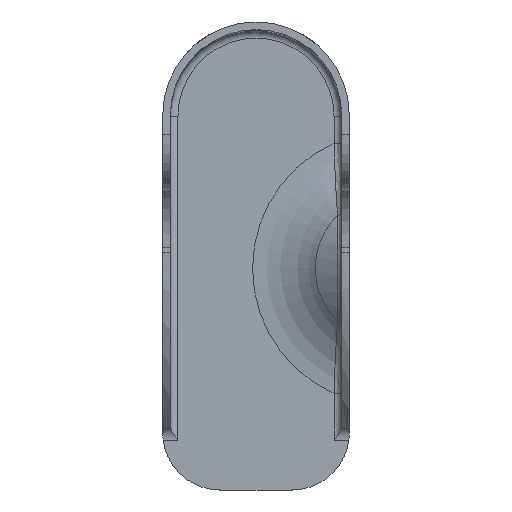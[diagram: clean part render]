
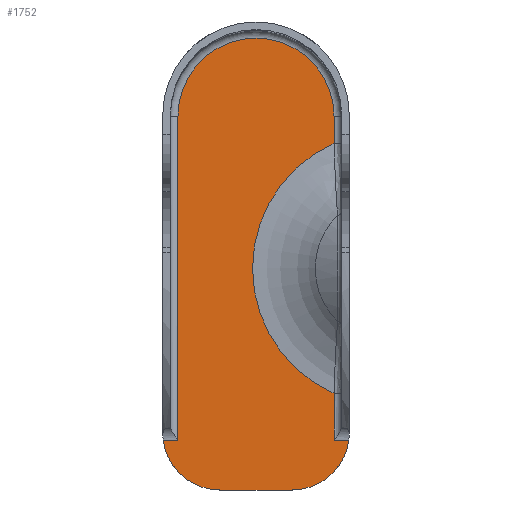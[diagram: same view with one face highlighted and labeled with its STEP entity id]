
A CAD part, top view. The second image highlights one B-rep face of the part: STEP entity #1752.
In plain terms, the highlighted planar face has unit normal (0, 0, 1).
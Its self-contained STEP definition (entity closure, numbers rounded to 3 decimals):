
#68=PLANE('',#1850);
#105=FACE_OUTER_BOUND('',#179,.T.);
#179=EDGE_LOOP('',(#1173,#1174,#1175,#1176,#1177,#1178,#1179,#1180,#1181,
#1182));
#300=CIRCLE('',#1836,20.5);
#308=CIRCLE('',#1849,35.906);
#309=CIRCLE('',#1851,15.);
#310=CIRCLE('',#1852,15.);
#364=LINE('',#2326,#437);
#367=LINE('',#2346,#440);
#369=LINE('',#2438,#442);
#370=LINE('',#2455,#443);
#371=LINE('',#2457,#444);
#372=LINE('',#2461,#445);
#437=VECTOR('',#1970,10.);
#440=VECTOR('',#1987,10.);
#442=VECTOR('',#2003,10.);
#443=VECTOR('',#2014,10.);
#444=VECTOR('',#2015,10.);
#445=VECTOR('',#2018,10.);
#650=VERTEX_POINT('',#2313);
#652=VERTEX_POINT('',#2325);
#655=VERTEX_POINT('',#2336);
#657=VERTEX_POINT('',#2342);
#663=VERTEX_POINT('',#2416);
#667=VERTEX_POINT('',#2437);
#668=VERTEX_POINT('',#2454);
#669=VERTEX_POINT('',#2456);
#670=VERTEX_POINT('',#2458);
#671=VERTEX_POINT('',#2460);
#858=EDGE_CURVE('',#650,#652,#364,.T.);
#864=EDGE_CURVE('',#652,#655,#300,.T.);
#867=EDGE_CURVE('',#655,#657,#367,.T.);
#879=EDGE_CURVE('',#663,#667,#369,.T.);
#882=EDGE_CURVE('',#657,#663,#308,.T.);
#883=EDGE_CURVE('',#668,#667,#370,.T.);
#884=EDGE_CURVE('',#650,#669,#371,.T.);
#885=EDGE_CURVE('',#669,#670,#309,.T.);
#886=EDGE_CURVE('',#670,#671,#372,.T.);
#887=EDGE_CURVE('',#671,#668,#310,.T.);
#1173=ORIENTED_EDGE('',*,*,#883,.T.);
#1174=ORIENTED_EDGE('',*,*,#879,.F.);
#1175=ORIENTED_EDGE('',*,*,#882,.F.);
#1176=ORIENTED_EDGE('',*,*,#867,.F.);
#1177=ORIENTED_EDGE('',*,*,#864,.F.);
#1178=ORIENTED_EDGE('',*,*,#858,.F.);
#1179=ORIENTED_EDGE('',*,*,#884,.T.);
#1180=ORIENTED_EDGE('',*,*,#885,.T.);
#1181=ORIENTED_EDGE('',*,*,#886,.T.);
#1182=ORIENTED_EDGE('',*,*,#887,.T.);
#1752=ADVANCED_FACE('',(#105),#68,.T.);
#1836=AXIS2_PLACEMENT_3D('',#2340,#1980,#1981);
#1849=AXIS2_PLACEMENT_3D('',#2452,#2010,#2011);
#1850=AXIS2_PLACEMENT_3D('',#2453,#2012,#2013);
#1851=AXIS2_PLACEMENT_3D('',#2459,#2016,#2017);
#1852=AXIS2_PLACEMENT_3D('',#2462,#2019,#2020);
#1970=DIRECTION('',(0.,1.,0.));
#1980=DIRECTION('center_axis',(0.,0.,-1.));
#1981=DIRECTION('ref_axis',(0.,1.,0.));
#1987=DIRECTION('',(0.,-1.,0.));
#2003=DIRECTION('',(0.,-1.,0.));
#2010=DIRECTION('center_axis',(0.,0.,1.));
#2011=DIRECTION('ref_axis',(-1.,0.,0.));
#2012=DIRECTION('center_axis',(0.,0.,1.));
#2013=DIRECTION('ref_axis',(1.,0.,0.));
#2014=DIRECTION('',(-1.,0.,0.));
#2015=DIRECTION('',(-1.,0.,0.));
#2016=DIRECTION('center_axis',(0.,0.,1.));
#2017=DIRECTION('ref_axis',(1.,0.,0.));
#2018=DIRECTION('',(1.,0.,0.));
#2019=DIRECTION('center_axis',(0.,0.,1.));
#2020=DIRECTION('ref_axis',(1.,0.,0.));
#2313=CARTESIAN_POINT('',(-20.5,-85.109,2.));
#2325=CARTESIAN_POINT('',(-20.5,0.,2.));
#2326=CARTESIAN_POINT('',(-20.5,-60.525,2.));
#2336=CARTESIAN_POINT('',(20.5,0.,2.));
#2340=CARTESIAN_POINT('Origin',(0.,0.,2.));
#2342=CARTESIAN_POINT('',(20.5,-7.152,2.));
#2346=CARTESIAN_POINT('',(20.5,-18.925,2.));
#2416=CARTESIAN_POINT('',(20.5,-72.848,2.));
#2437=CARTESIAN_POINT('',(20.5,-85.109,2.));
#2438=CARTESIAN_POINT('',(20.5,-18.925,2.));
#2452=CARTESIAN_POINT('Origin',(35.,-40.,2.));
#2453=CARTESIAN_POINT('Origin',(0.,-37.85,2.));
#2454=CARTESIAN_POINT('',(24.378,-85.109,2.));
#2455=CARTESIAN_POINT('',(11.25,-85.109,2.));
#2456=CARTESIAN_POINT('',(-24.378,-85.109,2.));
#2457=CARTESIAN_POINT('',(-12.25,-85.109,2.));
#2458=CARTESIAN_POINT('',(-9.5,-98.2,2.));
#2459=CARTESIAN_POINT('Origin',(-9.5,-83.2,2.));
#2460=CARTESIAN_POINT('',(9.5,-98.2,2.));
#2461=CARTESIAN_POINT('',(-9.5,-98.2,2.));
#2462=CARTESIAN_POINT('Origin',(9.5,-83.2,2.));
